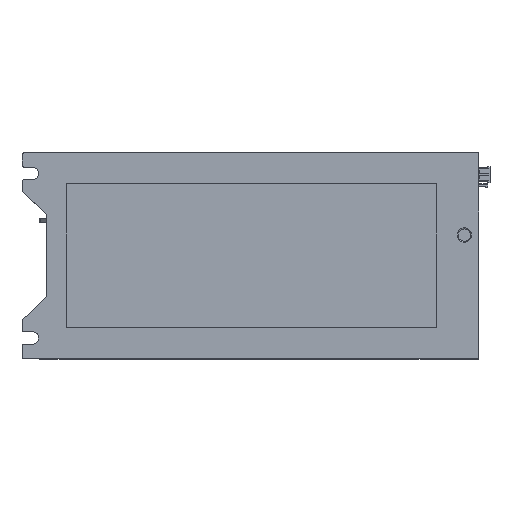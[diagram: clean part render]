
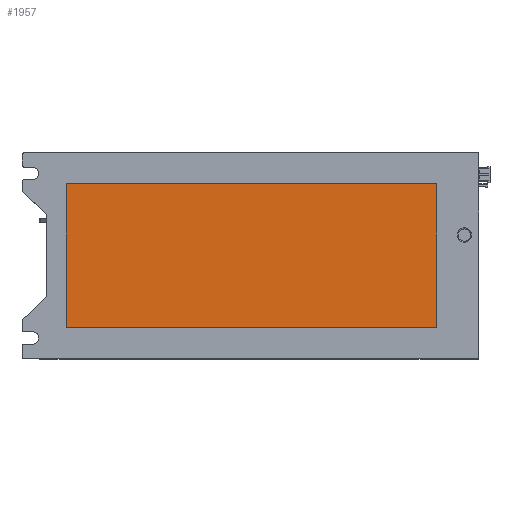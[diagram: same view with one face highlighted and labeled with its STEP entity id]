
A CAD part, top view. The second image highlights one B-rep face of the part: STEP entity #1957.
In plain terms, the highlighted planar face has unit normal (0, 0, 1).
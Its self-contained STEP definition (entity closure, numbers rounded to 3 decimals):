
#1957 = ADVANCED_FACE ( 'NONE', ( #32170 ), #22593, .T. ) ;
#3167 = DIRECTION ( 'NONE',  ( 0., 0., 1. ) ) ;
#6688 = DIRECTION ( 'NONE',  ( 1., 0., 0. ) ) ;
#7043 = LINE ( 'NONE', #27460, #37749 ) ;
#8726 = VERTEX_POINT ( 'NONE', #41277 ) ;
#10742 = DIRECTION ( 'NONE',  ( 0., -1., 0. ) ) ;
#11818 = VERTEX_POINT ( 'NONE', #14292 ) ;
#13964 = LINE ( 'NONE', #16159, #27736 ) ;
#14292 = CARTESIAN_POINT ( 'NONE',  ( -20.5, 85., 106.5 ) ) ;
#16159 = CARTESIAN_POINT ( 'NONE',  ( -200.5, 15., 106.5 ) ) ;
#18588 = EDGE_CURVE ( 'NONE', #29455, #8726, #13964, .T. ) ;
#18775 = EDGE_CURVE ( 'NONE', #11818, #38757, #7043, .T. ) ;
#19862 = CARTESIAN_POINT ( 'NONE',  ( -200.5, 15., 106.5 ) ) ;
#20871 = ORIENTED_EDGE ( 'NONE', *, *, #18588, .T. ) ;
#21013 = ORIENTED_EDGE ( 'NONE', *, *, #38792, .T. ) ;
#22173 = LINE ( 'NONE', #27810, #25294 ) ;
#22593 = PLANE ( 'NONE',  #28615 ) ;
#23076 = CARTESIAN_POINT ( 'NONE',  ( -200.5, 85., 106.5 ) ) ;
#24190 = EDGE_CURVE ( 'NONE', #38757, #29455, #39099, .T. ) ;
#25294 = VECTOR ( 'NONE', #43150, 1000. ) ;
#26141 = CARTESIAN_POINT ( 'NONE',  ( -200.5, 85., 106.5 ) ) ;
#27164 = CARTESIAN_POINT ( 'NONE',  ( 0., 0., 106.5 ) ) ;
#27173 = EDGE_LOOP ( 'NONE', ( #34974, #20871, #21013, #42612 ) ) ;
#27460 = CARTESIAN_POINT ( 'NONE',  ( -200.5, 85., 106.5 ) ) ;
#27736 = VECTOR ( 'NONE', #44108, 1000. ) ;
#27810 = CARTESIAN_POINT ( 'NONE',  ( -20.5, 85., 106.5 ) ) ;
#28615 = AXIS2_PLACEMENT_3D ( 'NONE', #27164, #3167, #6688 ) ;
#29455 = VERTEX_POINT ( 'NONE', #19862 ) ;
#31563 = VECTOR ( 'NONE', #10742, 1000. ) ;
#32170 = FACE_OUTER_BOUND ( 'NONE', #27173, .T. ) ;
#34974 = ORIENTED_EDGE ( 'NONE', *, *, #24190, .T. ) ;
#36013 = DIRECTION ( 'NONE',  ( -1., 0., 0. ) ) ;
#37749 = VECTOR ( 'NONE', #36013, 1000. ) ;
#38757 = VERTEX_POINT ( 'NONE', #23076 ) ;
#38792 = EDGE_CURVE ( 'NONE', #8726, #11818, #22173, .T. ) ;
#39099 = LINE ( 'NONE', #26141, #31563 ) ;
#41277 = CARTESIAN_POINT ( 'NONE',  ( -20.5, 15., 106.5 ) ) ;
#42612 = ORIENTED_EDGE ( 'NONE', *, *, #18775, .T. ) ;
#43150 = DIRECTION ( 'NONE',  ( 0., 1., 0. ) ) ;
#44108 = DIRECTION ( 'NONE',  ( 1., 0., 0. ) ) ;
